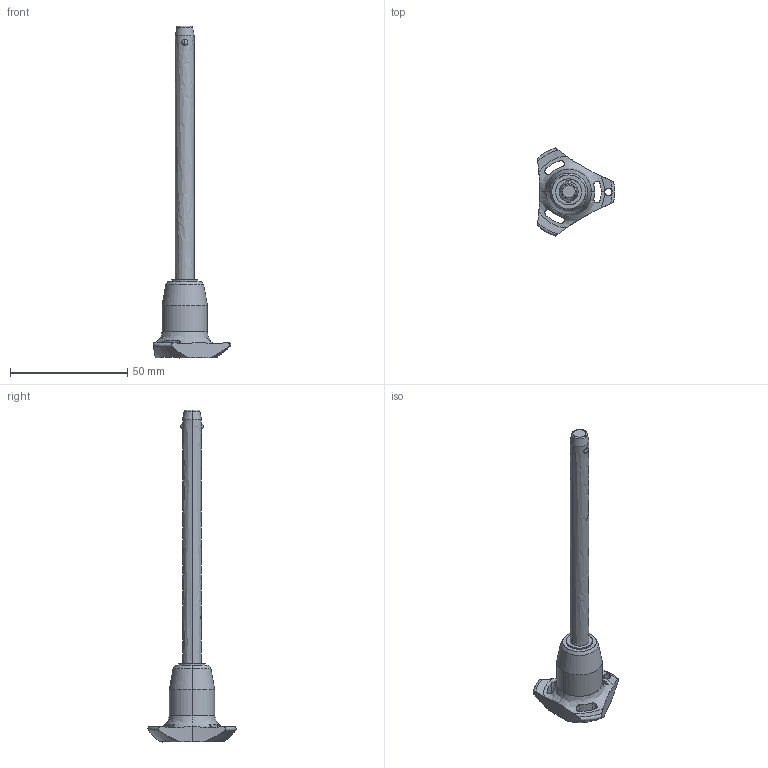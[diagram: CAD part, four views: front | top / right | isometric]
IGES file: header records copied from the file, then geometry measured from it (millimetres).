
Start section: SolidWorks IGES file using analytic representation for surfaces
Global section: file name: C:\Users\ianosborn\Desktop\QR1704_v2\QR1704_v2_20251111_IGES\QR1704.M08-100-S.igs; native system: SolidWorks 2019; preprocessor: SolidWorks 2019; author: IanOsborn; date: 251112.091756; units: millimetre
Bounding box: 33 x 37.51 x 141.5 mm (x, y, z)
Surface area: 6567.9 mm2 (no closed solid volume)
Topology: 0 solids, 0 shells, 65 faces, 1274 edges, 1270 vertices
Faces by surface type: revolution 50, bspline 15
